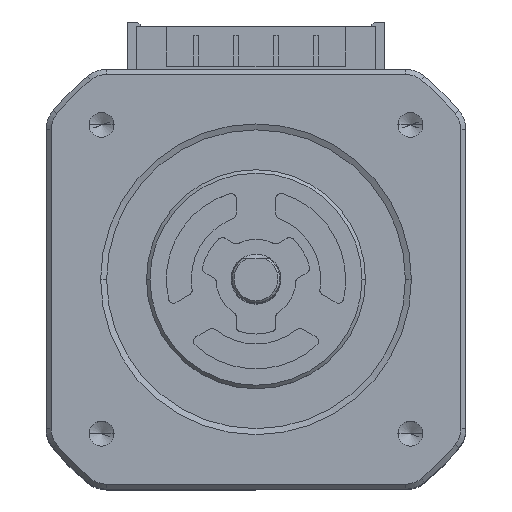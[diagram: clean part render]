
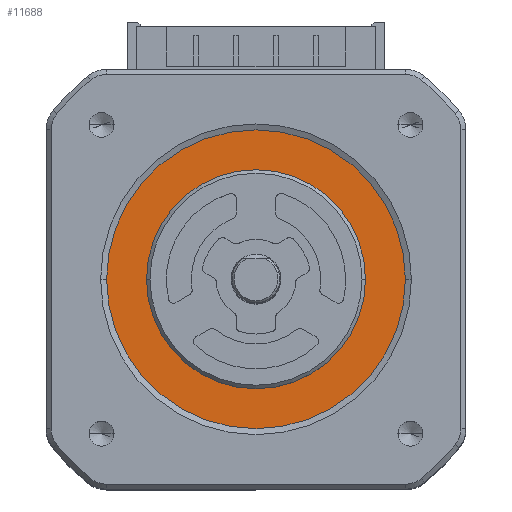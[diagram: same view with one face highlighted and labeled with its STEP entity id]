
A CAD part, top view. The second image highlights one B-rep face of the part: STEP entity #11688.
In plain terms, the highlighted planar face has unit normal (0, 0, 1).
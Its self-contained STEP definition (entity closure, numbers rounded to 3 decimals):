
#482 = FACE_BOUND ( 'NONE', #1726, .T. ) ;
#839 = AXIS2_PLACEMENT_3D ( 'NONE', #7488, #6457, #13993 ) ;
#1024 = PLANE ( 'NONE',  #839 ) ;
#1072 = EDGE_CURVE ( 'NONE', #1144, #2988, #11875, .T. ) ;
#1144 = VERTEX_POINT ( 'NONE', #6324 ) ;
#1225 = ORIENTED_EDGE ( 'NONE', *, *, #1072, .F. ) ;
#1726 = EDGE_LOOP ( 'NONE', ( #1225, #4678 ) ) ;
#2062 = VERTEX_POINT ( 'NONE', #13726 ) ;
#2260 = EDGE_LOOP ( 'NONE', ( #9710, #10908 ) ) ;
#2461 = AXIS2_PLACEMENT_3D ( 'NONE', #5488, #3014, #9620 ) ;
#2850 = DIRECTION ( 'NONE',  ( 0., 0., 1. ) ) ;
#2947 = EDGE_CURVE ( 'NONE', #8142, #2062, #5211, .T. ) ;
#2988 = VERTEX_POINT ( 'NONE', #4782 ) ;
#3014 = DIRECTION ( 'NONE',  ( 0., 0., 1. ) ) ;
#4678 = ORIENTED_EDGE ( 'NONE', *, *, #10207, .F. ) ;
#4689 = DIRECTION ( 'NONE',  ( 0., 0., 1. ) ) ;
#4782 = CARTESIAN_POINT ( 'NONE',  ( 10.995, 0., -0.3 ) ) ;
#5211 = CIRCLE ( 'NONE', #7104, 15. ) ;
#5488 = CARTESIAN_POINT ( 'NONE',  ( 0., 0., -0.3 ) ) ;
#5555 = DIRECTION ( 'NONE',  ( 0., 0., 1. ) ) ;
#5890 = FACE_OUTER_BOUND ( 'NONE', #2260, .T. ) ;
#6324 = CARTESIAN_POINT ( 'NONE',  ( -10.995, 0., -0.3 ) ) ;
#6457 = DIRECTION ( 'NONE',  ( 0., 0., 1. ) ) ;
#7104 = AXIS2_PLACEMENT_3D ( 'NONE', #11152, #4689, #12233 ) ;
#7150 = CARTESIAN_POINT ( 'NONE',  ( -15., 0., -0.3 ) ) ;
#7488 = CARTESIAN_POINT ( 'NONE',  ( 0., 15., -0.3 ) ) ;
#7608 = CIRCLE ( 'NONE', #9959, 10.995 ) ;
#8142 = VERTEX_POINT ( 'NONE', #7150 ) ;
#9325 = CARTESIAN_POINT ( 'NONE',  ( 0., 0., -0.3 ) ) ;
#9620 = DIRECTION ( 'NONE',  ( 1., 0., 0. ) ) ;
#9710 = ORIENTED_EDGE ( 'NONE', *, *, #12394, .T. ) ;
#9959 = AXIS2_PLACEMENT_3D ( 'NONE', #11997, #5555, #13093 ) ;
#10207 = EDGE_CURVE ( 'NONE', #2988, #1144, #7608, .T. ) ;
#10409 = DIRECTION ( 'NONE',  ( 1., 0., 0. ) ) ;
#10908 = ORIENTED_EDGE ( 'NONE', *, *, #2947, .T. ) ;
#11152 = CARTESIAN_POINT ( 'NONE',  ( 0., 0., -0.3 ) ) ;
#11688 = ADVANCED_FACE ( 'NONE', ( #5890, #482 ), #1024, .T. ) ;
#11875 = CIRCLE ( 'NONE', #2461, 10.995 ) ;
#11997 = CARTESIAN_POINT ( 'NONE',  ( 0., 0., -0.3 ) ) ;
#12233 = DIRECTION ( 'NONE',  ( 1., 0., 0. ) ) ;
#12394 = EDGE_CURVE ( 'NONE', #2062, #8142, #13959, .T. ) ;
#12609 = AXIS2_PLACEMENT_3D ( 'NONE', #9325, #2850, #10409 ) ;
#13093 = DIRECTION ( 'NONE',  ( 1., 0., 0. ) ) ;
#13726 = CARTESIAN_POINT ( 'NONE',  ( 15., 0., -0.3 ) ) ;
#13959 = CIRCLE ( 'NONE', #12609, 15. ) ;
#13993 = DIRECTION ( 'NONE',  ( 1., 0., 0. ) ) ;
